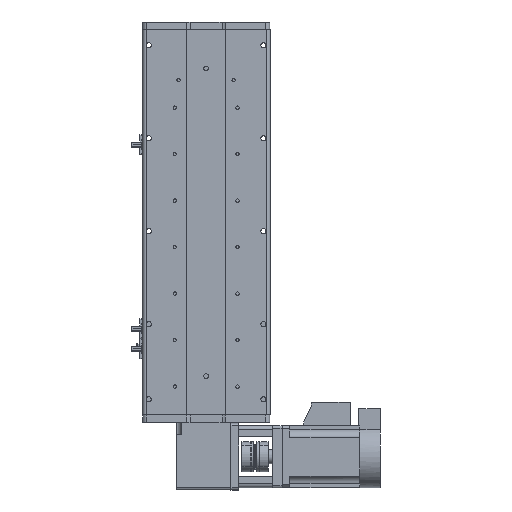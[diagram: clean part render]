
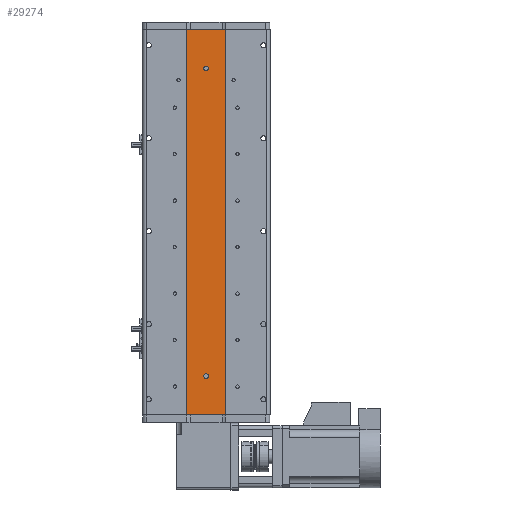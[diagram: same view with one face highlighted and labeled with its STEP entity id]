
A CAD part, front view. The second image highlights one B-rep face of the part: STEP entity #29274.
In plain terms, the highlighted planar face has unit normal (0, -1, 0).
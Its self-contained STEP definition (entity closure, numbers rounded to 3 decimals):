
#91 = DIRECTION ( 'NONE',  ( 0., 0., -1. ) ) ;
#1384 = ORIENTED_EDGE ( 'NONE', *, *, #33695, .F. ) ;
#1668 = ORIENTED_EDGE ( 'NONE', *, *, #15521, .T. ) ;
#1683 = EDGE_LOOP ( 'NONE', ( #1668, #14482 ) ) ;
#1751 = FACE_OUTER_BOUND ( 'NONE', #14009, .T. ) ;
#1939 = ORIENTED_EDGE ( 'NONE', *, *, #22280, .F. ) ;
#2670 = CIRCLE ( 'NONE', #16081, 3. ) ;
#2835 = FACE_BOUND ( 'NONE', #1683, .T. ) ;
#2935 = CARTESIAN_POINT ( 'NONE',  ( 25., 1., 248.5 ) ) ;
#3045 = ORIENTED_EDGE ( 'NONE', *, *, #41601, .T. ) ;
#3428 = VERTEX_POINT ( 'NONE', #14884 ) ;
#4079 = LINE ( 'NONE', #25056, #21294 ) ;
#5614 = VECTOR ( 'NONE', #32774, 1000. ) ;
#5699 = CARTESIAN_POINT ( 'NONE',  ( 0., 1., 195.5 ) ) ;
#5919 = DIRECTION ( 'NONE',  ( 0., 1., 0. ) ) ;
#6984 = CARTESIAN_POINT ( 'NONE',  ( 0., 1., -198.5 ) ) ;
#7252 = CARTESIAN_POINT ( 'NONE',  ( 0., 1., 201.5 ) ) ;
#7588 = LINE ( 'NONE', #2935, #33993 ) ;
#8350 = AXIS2_PLACEMENT_3D ( 'NONE', #34733, #17394, #41672 ) ;
#8452 = DIRECTION ( 'NONE',  ( 0., 1., 0. ) ) ;
#8905 = AXIS2_PLACEMENT_3D ( 'NONE', #6984, #31134, #10441 ) ;
#10282 = VERTEX_POINT ( 'NONE', #41496 ) ;
#10303 = CARTESIAN_POINT ( 'NONE',  ( -25., 1., -248.5 ) ) ;
#10441 = DIRECTION ( 'NONE',  ( 0., 0., 1. ) ) ;
#11317 = ORIENTED_EDGE ( 'NONE', *, *, #13569, .T. ) ;
#11489 = EDGE_CURVE ( 'NONE', #10282, #3428, #16096, .T. ) ;
#11972 = CARTESIAN_POINT ( 'NONE',  ( 0., 1., 198.5 ) ) ;
#12239 = CIRCLE ( 'NONE', #39920, 3. ) ;
#13569 = EDGE_CURVE ( 'NONE', #35179, #35720, #33120, .T. ) ;
#14009 = EDGE_LOOP ( 'NONE', ( #11317, #1939, #1384, #36676 ) ) ;
#14482 = ORIENTED_EDGE ( 'NONE', *, *, #11489, .T. ) ;
#14884 = CARTESIAN_POINT ( 'NONE',  ( 0., 1., -201.5 ) ) ;
#15457 = DIRECTION ( 'NONE',  ( 0., 0., 1. ) ) ;
#15521 = EDGE_CURVE ( 'NONE', #3428, #10282, #12239, .T. ) ;
#16081 = AXIS2_PLACEMENT_3D ( 'NONE', #11972, #36107, #15457 ) ;
#16096 = CIRCLE ( 'NONE', #8905, 3. ) ;
#17394 = DIRECTION ( 'NONE',  ( 0., 1., 0. ) ) ;
#17544 = PLANE ( 'NONE',  #8350 ) ;
#18642 = EDGE_CURVE ( 'NONE', #42592, #41823, #2670, .T. ) ;
#18997 = FACE_BOUND ( 'NONE', #44083, .T. ) ;
#21294 = VECTOR ( 'NONE', #28533, 1000. ) ;
#21951 = CARTESIAN_POINT ( 'NONE',  ( 25., 1., 248.5 ) ) ;
#22280 = EDGE_CURVE ( 'NONE', #30061, #35720, #7588, .T. ) ;
#22336 = CARTESIAN_POINT ( 'NONE',  ( 25., 1., -248.5 ) ) ;
#24295 = VECTOR ( 'NONE', #91, 1000. ) ;
#25056 = CARTESIAN_POINT ( 'NONE',  ( 25., 1., 248.5 ) ) ;
#26584 = CARTESIAN_POINT ( 'NONE',  ( 0., 1., 198.5 ) ) ;
#28153 = CARTESIAN_POINT ( 'NONE',  ( -25., 1., 248.5 ) ) ;
#28533 = DIRECTION ( 'NONE',  ( 1., 0., 0. ) ) ;
#29127 = CARTESIAN_POINT ( 'NONE',  ( 0., 1., -198.5 ) ) ;
#29274 = ADVANCED_FACE ( 'NONE', ( #2835, #18997, #1751 ), #17544, .F. ) ;
#30055 = DIRECTION ( 'NONE',  ( 0., 0., 1. ) ) ;
#30061 = VERTEX_POINT ( 'NONE', #21951 ) ;
#30242 = ORIENTED_EDGE ( 'NONE', *, *, #18642, .T. ) ;
#30719 = CARTESIAN_POINT ( 'NONE',  ( -25., 1., 248.5 ) ) ;
#31134 = DIRECTION ( 'NONE',  ( 0., 1., 0. ) ) ;
#32578 = DIRECTION ( 'NONE',  ( 0., 0., 1. ) ) ;
#32774 = DIRECTION ( 'NONE',  ( 1., 0., 0. ) ) ;
#33120 = LINE ( 'NONE', #22336, #5614 ) ;
#33470 = LINE ( 'NONE', #30719, #24295 ) ;
#33695 = EDGE_CURVE ( 'NONE', #40788, #30061, #4079, .T. ) ;
#33993 = VECTOR ( 'NONE', #37175, 1000. ) ;
#34733 = CARTESIAN_POINT ( 'NONE',  ( 25., 1., 248.5 ) ) ;
#35179 = VERTEX_POINT ( 'NONE', #10303 ) ;
#35720 = VERTEX_POINT ( 'NONE', #41162 ) ;
#36107 = DIRECTION ( 'NONE',  ( 0., 1., 0. ) ) ;
#36676 = ORIENTED_EDGE ( 'NONE', *, *, #39142, .T. ) ;
#37175 = DIRECTION ( 'NONE',  ( 0., 0., -1. ) ) ;
#39142 = EDGE_CURVE ( 'NONE', #40788, #35179, #33470, .T. ) ;
#39920 = AXIS2_PLACEMENT_3D ( 'NONE', #29127, #8452, #32578 ) ;
#40788 = VERTEX_POINT ( 'NONE', #28153 ) ;
#41162 = CARTESIAN_POINT ( 'NONE',  ( 25., 1., -248.5 ) ) ;
#41496 = CARTESIAN_POINT ( 'NONE',  ( 0., 1., -195.5 ) ) ;
#41601 = EDGE_CURVE ( 'NONE', #41823, #42592, #42469, .T. ) ;
#41672 = DIRECTION ( 'NONE',  ( 0., 0., 1. ) ) ;
#41823 = VERTEX_POINT ( 'NONE', #7252 ) ;
#42128 = AXIS2_PLACEMENT_3D ( 'NONE', #26584, #5919, #30055 ) ;
#42469 = CIRCLE ( 'NONE', #42128, 3. ) ;
#42592 = VERTEX_POINT ( 'NONE', #5699 ) ;
#44083 = EDGE_LOOP ( 'NONE', ( #30242, #3045 ) ) ;
